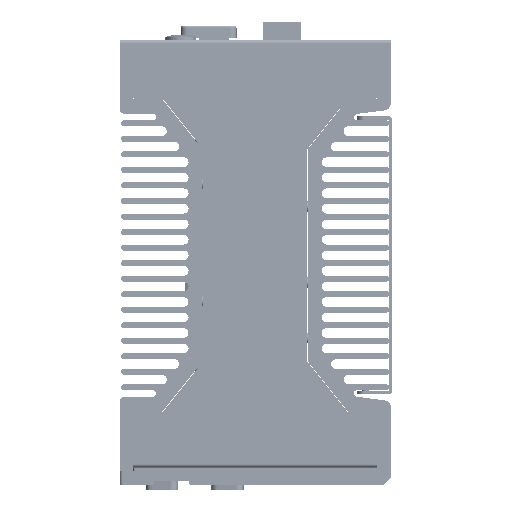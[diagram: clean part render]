
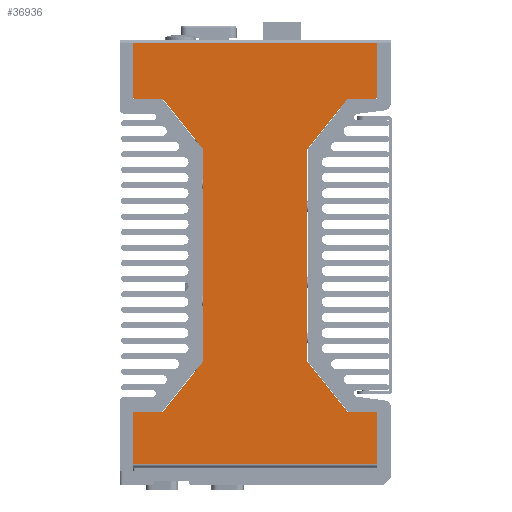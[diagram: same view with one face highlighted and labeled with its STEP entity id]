
A CAD part, left-side view. The second image highlights one B-rep face of the part: STEP entity #36936.
In plain terms, the highlighted planar face has unit normal (-1, 0, 0) as drawn and (1, 0, 0) by its records, which use the part's own axes.
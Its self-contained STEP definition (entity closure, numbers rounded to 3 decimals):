
#31295=DIRECTION('',(0.,-1.,0.));
#31296=VECTOR('',#31295,70.6);
#31297=CARTESIAN_POINT('',(95.,36.8,122.));
#31298=LINE('',#31297,#31296);
#31977=DIRECTION('',(0.,1.,0.));
#31978=VECTOR('',#31977,8.272);
#31979=CARTESIAN_POINT('',(95.,28.328,106.95));
#31980=LINE('',#31979,#31978);
#31991=DIRECTION('',(0.,0.,1.));
#31992=VECTOR('',#31991,61.706);
#31993=CARTESIAN_POINT('',(95.,16.65,30.647));
#31994=LINE('',#31993,#31992);
#32154=DIRECTION('',(0.,1.,0.));
#32155=VECTOR('',#32154,70.6);
#32156=CARTESIAN_POINT('',(95.,-33.8,0.));
#32157=LINE('',#32156,#32155);
#32168=CARTESIAN_POINT('',(95.,-33.6,107.15));
#32169=DIRECTION('',(-1.,0.,0.));
#32170=DIRECTION('',(0.,0.,-1.));
#32171=AXIS2_PLACEMENT_3D('',#32168,#32169,#32170);
#32176=DIRECTION('',(0.,0.,1.));
#32177=VECTOR('',#32176,14.85);
#32178=CARTESIAN_POINT('',(95.,-33.8,107.15));
#32179=LINE('',#32178,#32177);
#32183=DIRECTION('',(0.,0.,-1.));
#32184=VECTOR('',#32183,14.85);
#32185=CARTESIAN_POINT('',(95.,36.8,122.));
#32186=LINE('',#32185,#32184);
#32190=CARTESIAN_POINT('',(95.,36.6,107.15));
#32191=DIRECTION('',(-1.,0.,0.));
#32192=DIRECTION('',(0.,1.,0.));
#32193=AXIS2_PLACEMENT_3D('',#32190,#32191,#32192);
#32198=DIRECTION('',(0.,-0.625,-0.781));
#32199=VECTOR('',#32198,18.693);
#32200=CARTESIAN_POINT('',(95.,28.328,106.95));
#32201=LINE('',#32200,#32199);
#32205=DIRECTION('',(0.,0.625,-0.781));
#32206=VECTOR('',#32205,18.693);
#32207=CARTESIAN_POINT('',(95.,16.65,30.647));
#32208=LINE('',#32207,#32206);
#32212=DIRECTION('',(0.,1.,0.));
#32213=VECTOR('',#32212,8.272);
#32214=CARTESIAN_POINT('',(95.,28.328,16.05));
#32215=LINE('',#32214,#32213);
#32219=CARTESIAN_POINT('',(95.,36.6,15.85));
#32220=DIRECTION('',(-1.,0.,0.));
#32221=DIRECTION('',(0.,0.,1.));
#32222=AXIS2_PLACEMENT_3D('',#32219,#32220,#32221);
#32227=DIRECTION('',(0.,0.,-1.));
#32228=VECTOR('',#32227,15.85);
#32229=CARTESIAN_POINT('',(95.,36.8,15.85));
#32230=LINE('',#32229,#32228);
#32234=DIRECTION('',(0.,0.,1.));
#32235=VECTOR('',#32234,15.85);
#32236=CARTESIAN_POINT('',(95.,-33.8,0.));
#32237=LINE('',#32236,#32235);
#32241=CARTESIAN_POINT('',(95.,-33.6,15.85));
#32242=DIRECTION('',(-1.,0.,0.));
#32243=DIRECTION('',(0.,-1.,0.));
#32244=AXIS2_PLACEMENT_3D('',#32241,#32242,#32243);
#32249=DIRECTION('',(0.,0.625,0.781));
#32250=VECTOR('',#32249,18.693);
#32251=CARTESIAN_POINT('',(95.,-25.328,16.05));
#32252=LINE('',#32251,#32250);
#32256=DIRECTION('',(0.,-0.625,0.781));
#32257=VECTOR('',#32256,18.693);
#32258=CARTESIAN_POINT('',(95.,-13.65,92.353));
#32259=LINE('',#32258,#32257);
#32263=DIRECTION('',(0.,-1.,0.));
#32264=VECTOR('',#32263,8.272);
#32265=CARTESIAN_POINT('',(95.,-25.328,106.95));
#32266=LINE('',#32265,#32264);
#32270=DIRECTION('',(0.,-1.,0.));
#32271=VECTOR('',#32270,8.272);
#32272=CARTESIAN_POINT('',(95.,-25.328,16.05));
#32273=LINE('',#32272,#32271);
#32284=DIRECTION('',(0.,0.,-1.));
#32285=VECTOR('',#32284,61.706);
#32286=CARTESIAN_POINT('',(95.,-13.65,92.353));
#32287=LINE('',#32286,#32285);
#33358=CARTESIAN_POINT('',(95.,-33.8,0.));
#33359=CARTESIAN_POINT('',(95.,36.8,0.));
#33360=VERTEX_POINT('',#33358);
#33361=VERTEX_POINT('',#33359);
#33362=CARTESIAN_POINT('',(95.,-33.6,106.95));
#33363=CARTESIAN_POINT('',(95.,-33.8,107.15));
#33364=VERTEX_POINT('',#33362);
#33365=VERTEX_POINT('',#33363);
#33366=CARTESIAN_POINT('',(95.,-33.8,122.));
#33367=VERTEX_POINT('',#33366);
#33368=CARTESIAN_POINT('',(95.,36.8,122.));
#33369=VERTEX_POINT('',#33368);
#33370=CARTESIAN_POINT('',(95.,36.8,107.15));
#33371=VERTEX_POINT('',#33370);
#33372=CARTESIAN_POINT('',(95.,36.6,106.95));
#33373=VERTEX_POINT('',#33372);
#33374=CARTESIAN_POINT('',(95.,28.328,106.95));
#33375=VERTEX_POINT('',#33374);
#33376=CARTESIAN_POINT('',(95.,16.65,92.353));
#33377=VERTEX_POINT('',#33376);
#33378=CARTESIAN_POINT('',(95.,16.65,30.647));
#33379=VERTEX_POINT('',#33378);
#33380=CARTESIAN_POINT('',(95.,28.328,16.05));
#33381=VERTEX_POINT('',#33380);
#33382=CARTESIAN_POINT('',(95.,36.6,16.05));
#33383=VERTEX_POINT('',#33382);
#33384=CARTESIAN_POINT('',(95.,36.8,15.85));
#33385=VERTEX_POINT('',#33384);
#33386=CARTESIAN_POINT('',(95.,-33.8,15.85));
#33387=VERTEX_POINT('',#33386);
#33388=CARTESIAN_POINT('',(95.,-33.6,16.05));
#33389=VERTEX_POINT('',#33388);
#33390=CARTESIAN_POINT('',(95.,-25.328,16.05));
#33391=VERTEX_POINT('',#33390);
#33392=CARTESIAN_POINT('',(95.,-13.65,30.647));
#33393=VERTEX_POINT('',#33392);
#33394=CARTESIAN_POINT('',(95.,-13.65,92.353));
#33395=VERTEX_POINT('',#33394);
#33396=CARTESIAN_POINT('',(95.,-25.328,106.95));
#33397=VERTEX_POINT('',#33396);
#36904=CARTESIAN_POINT('',(95.,-17.025,-1.));
#36905=DIRECTION('',(1.,0.,0.));
#36906=DIRECTION('',(0.,1.,0.));
#36907=AXIS2_PLACEMENT_3D('',#36904,#36905,#36906);
#36908=PLANE('',#36907);
#36909=ORIENTED_EDGE('',*,*,#36051,.T.);
#36910=ORIENTED_EDGE('',*,*,#36067,.T.);
#36911=ORIENTED_EDGE('',*,*,#36094,.F.);
#36912=ORIENTED_EDGE('',*,*,#36670,.T.);
#36913=ORIENTED_EDGE('',*,*,#36685,.T.);
#36914=ORIENTED_EDGE('',*,*,#36700,.F.);
#36915=ORIENTED_EDGE('',*,*,#36713,.T.);
#36916=ORIENTED_EDGE('',*,*,#36727,.F.);
#36917=ORIENTED_EDGE('',*,*,#36741,.T.);
#36918=ORIENTED_EDGE('',*,*,#36754,.T.);
#36919=ORIENTED_EDGE('',*,*,#36769,.T.);
#36920=ORIENTED_EDGE('',*,*,#36784,.T.);
#36921=ORIENTED_EDGE('',*,*,#36896,.F.);
#36922=ORIENTED_EDGE('',*,*,#35975,.T.);
#36923=ORIENTED_EDGE('',*,*,#35992,.T.);
#36925=ORIENTED_EDGE('',*,*,#36924,.F.);
#36927=ORIENTED_EDGE('',*,*,#36926,.T.);
#36929=ORIENTED_EDGE('',*,*,#36928,.F.);
#36931=ORIENTED_EDGE('',*,*,#36930,.T.);
#36933=ORIENTED_EDGE('',*,*,#36932,.T.);
#36934=EDGE_LOOP('',(#36909,#36910,#36911,#36912,#36913,#36914,#36915,#36916,
#36917,#36918,#36919,#36920,#36921,#36922,#36923,#36925,#36927,#36929,#36931,
#36933));
#36935=FACE_OUTER_BOUND('',#36934,.F.);
#32172=CIRCLE('',#32171,0.2);
#32194=CIRCLE('',#32193,0.2);
#32223=CIRCLE('',#32222,0.2);
#32245=CIRCLE('',#32244,0.2);
#35975=EDGE_CURVE('',#33360,#33387,#32237,.T.);
#35992=EDGE_CURVE('',#33387,#33389,#32245,.T.);
#36051=EDGE_CURVE('',#33364,#33365,#32172,.T.);
#36067=EDGE_CURVE('',#33365,#33367,#32179,.T.);
#36094=EDGE_CURVE('',#33369,#33367,#31298,.T.);
#36670=EDGE_CURVE('',#33369,#33371,#32186,.T.);
#36685=EDGE_CURVE('',#33371,#33373,#32194,.T.);
#36700=EDGE_CURVE('',#33375,#33373,#31980,.T.);
#36713=EDGE_CURVE('',#33375,#33377,#32201,.T.);
#36727=EDGE_CURVE('',#33379,#33377,#31994,.T.);
#36741=EDGE_CURVE('',#33379,#33381,#32208,.T.);
#36754=EDGE_CURVE('',#33381,#33383,#32215,.T.);
#36769=EDGE_CURVE('',#33383,#33385,#32223,.T.);
#36784=EDGE_CURVE('',#33385,#33361,#32230,.T.);
#36896=EDGE_CURVE('',#33360,#33361,#32157,.T.);
#36924=EDGE_CURVE('',#33391,#33389,#32273,.T.);
#36926=EDGE_CURVE('',#33391,#33393,#32252,.T.);
#36928=EDGE_CURVE('',#33395,#33393,#32287,.T.);
#36930=EDGE_CURVE('',#33395,#33397,#32259,.T.);
#36932=EDGE_CURVE('',#33397,#33364,#32266,.T.);
#36936=ADVANCED_FACE('',(#36935),#36908,.T.);
